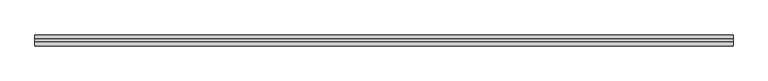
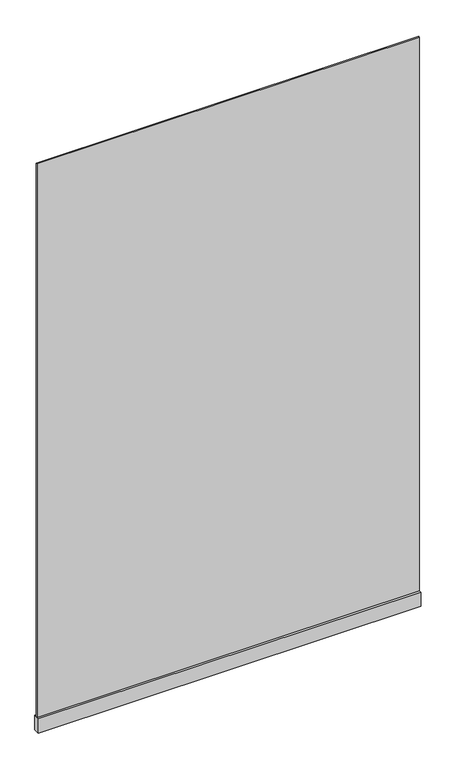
"""IFC4 building model written with IfcOpenShell, lengths in millimetres: plate geometry, r パネル FIX 下框付 : 框 H100."""

from ifc_helpers import new_model, si_unit, frame, origin, origin_with_axes, place, context, project, spatial, polyline, outline, extrude, source, transform, mapped, element, save


def plate_c3b39e59(model_context):
    return source(origin(), model_context, "Body", "SweptSolid", [
        extrude(outline(polyline([(-1267.5, 5.0), (1267.5, 5.0), (1267.5, -5.0), (-1267.5, -5.0), (-1267.5, 5.0)])), frame((0.0, 0.0, 100.0), z_axis=(0.0, 0.0, 1.0), x_axis=(1.0, 0.0, 0.0)), (0.0, 0.0, 1.0), 3875.0),
        extrude(outline(polyline([(-1267.5, 20.0), (1267.5, 20.0), (1267.5, -20.0), (-1267.5, -20.0), (-1267.5, 20.0)])), origin_with_axes(), (0.0, 0.0, 1.0), 100.0),
    ])


if __name__ == "__main__":
    model = new_model("IFC4")
    model_context = context("Model", 3, world=origin())
    ifc_project = project(units=[si_unit("LENGTHUNIT", "METRE", prefix="MILLI")], contexts=[model_context])
    site = spatial("IfcSite", under=ifc_project)
    building = spatial("IfcBuilding", under=site)
    placement = place(None, origin())
    plate_shape = plate_c3b39e59(model_context)
    element("IfcPlate", 1, ObjectType="r パネル FIX 下框付 : 框 H100", at=placement, inside=building, context=model_context, shape_type="MappedRepresentation", body=[
        mapped(plate_shape, transform((0.0, 0.0, 0.0), x_axis=(1.0, 0.0, 0.0), y_axis=(0.0, 1.0, 0.0), z_axis=(0.0, 0.0, 1.0))),
    ])
    save(model, "model.ifc")
